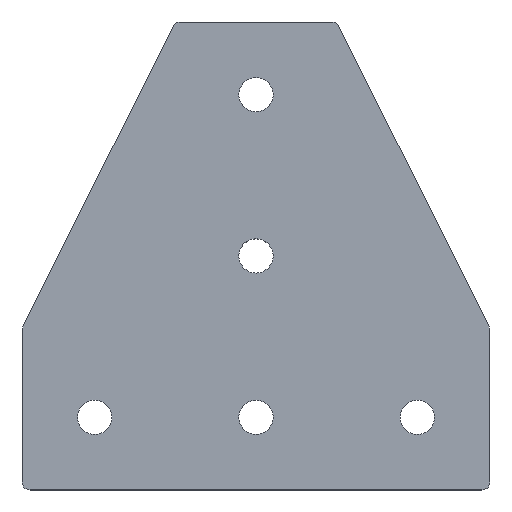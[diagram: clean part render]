
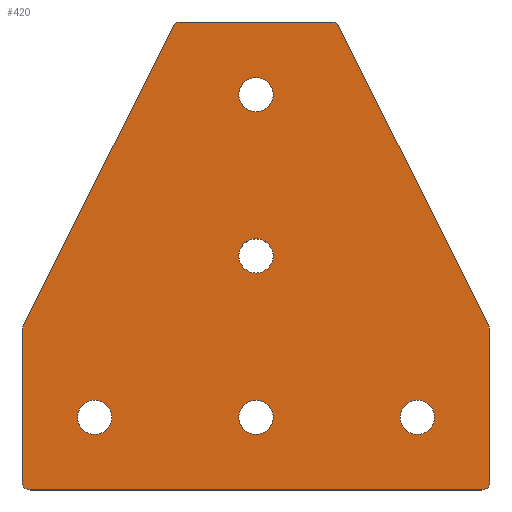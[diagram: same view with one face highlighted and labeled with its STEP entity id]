
A CAD part, top view. The second image highlights one B-rep face of the part: STEP entity #420.
In plain terms, the highlighted planar face has unit normal (0, 0, 1).
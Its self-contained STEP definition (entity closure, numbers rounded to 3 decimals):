
#63=FACE_BOUND('',#119,.T.);
#64=FACE_BOUND('',#120,.T.);
#65=FACE_BOUND('',#121,.T.);
#66=FACE_BOUND('',#122,.T.);
#67=FACE_BOUND('',#123,.T.);
#75=PLANE('',#484);
#94=FACE_OUTER_BOUND('',#118,.T.);
#118=EDGE_LOOP('',(#374,#375,#376,#377,#378,#379,#380,#381,#382,#383,#384,
#385));
#119=EDGE_LOOP('',(#386));
#120=EDGE_LOOP('',(#387));
#121=EDGE_LOOP('',(#388));
#122=EDGE_LOOP('',(#389));
#123=EDGE_LOOP('',(#390));
#128=LINE('',#661,#157);
#136=LINE('',#699,#165);
#139=LINE('',#707,#168);
#142=LINE('',#715,#171);
#145=LINE('',#723,#174);
#152=LINE('',#749,#181);
#157=VECTOR('',#515,10.);
#165=VECTOR('',#551,10.);
#168=VECTOR('',#560,10.);
#171=VECTOR('',#569,10.);
#174=VECTOR('',#578,10.);
#181=VECTOR('',#611,10.);
#182=CIRCLE('',#445,2.);
#194=CIRCLE('',#460,2.);
#195=CIRCLE('',#463,2.);
#196=CIRCLE('',#466,2.);
#197=CIRCLE('',#469,2.);
#198=CIRCLE('',#472,2.);
#199=CIRCLE('',#474,4.25);
#200=CIRCLE('',#476,4.25);
#201=CIRCLE('',#478,4.25);
#202=CIRCLE('',#480,4.25);
#203=CIRCLE('',#482,4.25);
#204=VERTEX_POINT('',#648);
#205=VERTEX_POINT('',#649);
#209=VERTEX_POINT('',#659);
#224=VERTEX_POINT('',#693);
#225=VERTEX_POINT('',#697);
#226=VERTEX_POINT('',#701);
#227=VERTEX_POINT('',#705);
#228=VERTEX_POINT('',#709);
#229=VERTEX_POINT('',#713);
#230=VERTEX_POINT('',#717);
#231=VERTEX_POINT('',#721);
#232=VERTEX_POINT('',#725);
#233=VERTEX_POINT('',#729);
#234=VERTEX_POINT('',#733);
#235=VERTEX_POINT('',#737);
#236=VERTEX_POINT('',#741);
#237=VERTEX_POINT('',#745);
#238=EDGE_CURVE('',#204,#205,#182,.T.);
#244=EDGE_CURVE('',#204,#209,#128,.T.);
#260=EDGE_CURVE('',#224,#209,#194,.T.);
#263=EDGE_CURVE('',#224,#225,#136,.T.);
#264=EDGE_CURVE('',#226,#225,#195,.T.);
#267=EDGE_CURVE('',#226,#227,#139,.T.);
#268=EDGE_CURVE('',#228,#227,#196,.T.);
#271=EDGE_CURVE('',#228,#229,#142,.T.);
#272=EDGE_CURVE('',#230,#229,#197,.T.);
#275=EDGE_CURVE('',#230,#231,#145,.T.);
#276=EDGE_CURVE('',#232,#231,#198,.T.);
#279=EDGE_CURVE('',#233,#233,#199,.T.);
#281=EDGE_CURVE('',#234,#234,#200,.T.);
#283=EDGE_CURVE('',#235,#235,#201,.T.);
#285=EDGE_CURVE('',#236,#236,#202,.T.);
#287=EDGE_CURVE('',#237,#237,#203,.T.);
#288=EDGE_CURVE('',#232,#205,#152,.T.);
#374=ORIENTED_EDGE('',*,*,#238,.F.);
#375=ORIENTED_EDGE('',*,*,#244,.T.);
#376=ORIENTED_EDGE('',*,*,#260,.F.);
#377=ORIENTED_EDGE('',*,*,#263,.T.);
#378=ORIENTED_EDGE('',*,*,#264,.F.);
#379=ORIENTED_EDGE('',*,*,#267,.T.);
#380=ORIENTED_EDGE('',*,*,#268,.F.);
#381=ORIENTED_EDGE('',*,*,#271,.T.);
#382=ORIENTED_EDGE('',*,*,#272,.F.);
#383=ORIENTED_EDGE('',*,*,#275,.T.);
#384=ORIENTED_EDGE('',*,*,#276,.F.);
#385=ORIENTED_EDGE('',*,*,#288,.T.);
#386=ORIENTED_EDGE('',*,*,#287,.T.);
#387=ORIENTED_EDGE('',*,*,#285,.T.);
#388=ORIENTED_EDGE('',*,*,#283,.T.);
#389=ORIENTED_EDGE('',*,*,#281,.T.);
#390=ORIENTED_EDGE('',*,*,#279,.T.);
#420=ADVANCED_FACE('',(#94,#63,#64,#65,#66,#67),#75,.T.);
#445=AXIS2_PLACEMENT_3D('',#650,#505,#506);
#460=AXIS2_PLACEMENT_3D('',#694,#545,#546);
#463=AXIS2_PLACEMENT_3D('',#702,#554,#555);
#466=AXIS2_PLACEMENT_3D('',#710,#563,#564);
#469=AXIS2_PLACEMENT_3D('',#718,#572,#573);
#472=AXIS2_PLACEMENT_3D('',#726,#581,#582);
#474=AXIS2_PLACEMENT_3D('',#731,#587,#588);
#476=AXIS2_PLACEMENT_3D('',#735,#592,#593);
#478=AXIS2_PLACEMENT_3D('',#739,#597,#598);
#480=AXIS2_PLACEMENT_3D('',#743,#602,#603);
#482=AXIS2_PLACEMENT_3D('',#747,#607,#608);
#484=AXIS2_PLACEMENT_3D('',#750,#612,#613);
#505=DIRECTION('center_axis',(0.,0.,-1.));
#506=DIRECTION('ref_axis',(-0.526,0.851,0.));
#515=DIRECTION('',(-0.447,-0.894,0.));
#545=DIRECTION('center_axis',(0.,0.,-1.));
#546=DIRECTION('ref_axis',(-0.973,0.23,0.));
#551=DIRECTION('',(0.,-1.,0.));
#554=DIRECTION('center_axis',(0.,0.,-1.));
#555=DIRECTION('ref_axis',(-0.707,-0.707,0.));
#560=DIRECTION('',(1.,0.,0.));
#563=DIRECTION('center_axis',(0.,0.,-1.));
#564=DIRECTION('ref_axis',(0.707,-0.707,0.));
#569=DIRECTION('',(0.,1.,0.));
#572=DIRECTION('center_axis',(0.,0.,-1.));
#573=DIRECTION('ref_axis',(0.973,0.23,0.));
#578=DIRECTION('',(-0.447,0.894,0.));
#581=DIRECTION('center_axis',(0.,0.,-1.));
#582=DIRECTION('ref_axis',(0.526,0.851,0.));
#587=DIRECTION('center_axis',(0.,0.,-1.));
#588=DIRECTION('ref_axis',(-1.,0.,0.));
#592=DIRECTION('center_axis',(0.,0.,-1.));
#593=DIRECTION('ref_axis',(-1.,0.,0.));
#597=DIRECTION('center_axis',(0.,0.,-1.));
#598=DIRECTION('ref_axis',(-1.,0.,0.));
#602=DIRECTION('center_axis',(0.,0.,-1.));
#603=DIRECTION('ref_axis',(-1.,0.,0.));
#607=DIRECTION('center_axis',(0.,0.,-1.));
#608=DIRECTION('ref_axis',(-1.,0.,0.));
#611=DIRECTION('',(-1.,0.,0.));
#612=DIRECTION('center_axis',(0.,0.,1.));
#613=DIRECTION('ref_axis',(1.,0.,0.));
#648=CARTESIAN_POINT('',(37.447,114.894,5.));
#649=CARTESIAN_POINT('',(39.236,116.,5.));
#650=CARTESIAN_POINT('Origin',(39.236,114.,5.));
#659=CARTESIAN_POINT('',(0.211,40.422,5.));
#661=CARTESIAN_POINT('',(38.,116.,5.));
#693=CARTESIAN_POINT('',(0.,39.528,5.));
#694=CARTESIAN_POINT('Origin',(2.,39.528,5.));
#697=CARTESIAN_POINT('',(0.,2.,5.));
#699=CARTESIAN_POINT('',(0.,40.,5.));
#701=CARTESIAN_POINT('',(2.,0.,5.));
#702=CARTESIAN_POINT('Origin',(2.,2.,5.));
#705=CARTESIAN_POINT('',(114.,0.,5.));
#707=CARTESIAN_POINT('',(0.,0.,5.));
#709=CARTESIAN_POINT('',(116.,2.,5.));
#710=CARTESIAN_POINT('Origin',(114.,2.,5.));
#713=CARTESIAN_POINT('',(116.,39.528,5.));
#715=CARTESIAN_POINT('',(116.,0.,5.));
#717=CARTESIAN_POINT('',(115.789,40.422,5.));
#718=CARTESIAN_POINT('Origin',(114.,39.528,5.));
#721=CARTESIAN_POINT('',(78.553,114.894,5.));
#723=CARTESIAN_POINT('',(116.,40.,5.));
#725=CARTESIAN_POINT('',(76.764,116.,5.));
#726=CARTESIAN_POINT('Origin',(76.764,114.,5.));
#729=CARTESIAN_POINT('',(62.25,18.,5.));
#731=CARTESIAN_POINT('Origin',(58.,18.,5.));
#733=CARTESIAN_POINT('',(102.25,18.,5.));
#735=CARTESIAN_POINT('Origin',(98.,18.,5.));
#737=CARTESIAN_POINT('',(22.25,18.,5.));
#739=CARTESIAN_POINT('Origin',(18.,18.,5.));
#741=CARTESIAN_POINT('',(62.25,58.,5.));
#743=CARTESIAN_POINT('Origin',(58.,58.,5.));
#745=CARTESIAN_POINT('',(62.25,98.,5.));
#747=CARTESIAN_POINT('Origin',(58.,98.,5.));
#749=CARTESIAN_POINT('',(78.,116.,5.));
#750=CARTESIAN_POINT('Origin',(58.,58.,5.));
